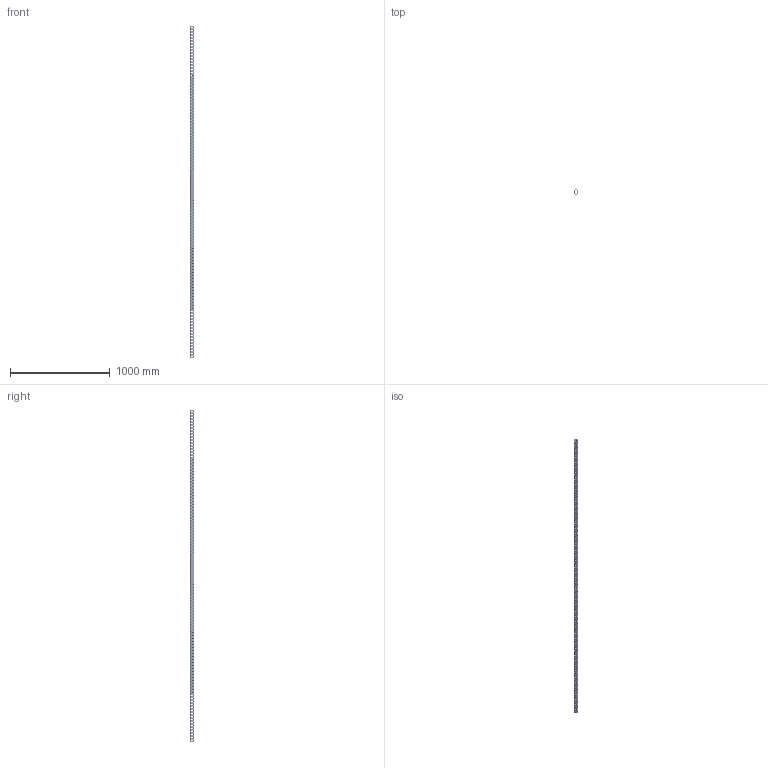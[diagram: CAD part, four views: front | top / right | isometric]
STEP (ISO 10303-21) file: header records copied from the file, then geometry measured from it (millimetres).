
FILE_DESCRIPTION(('CATIA V5 STEP Exchange'),'2;1');
FILE_NAME('U:\Room\唐宝山\EGT002\46-01-010340-01-EGT002-3328.stp','2021-08-24T07:30:40+00:00',('none'),('none'),'CATIA Version 5 Release 21 GA (IN-10)','CATIA V5 STEP AP203','none');
FILE_SCHEMA(('CONFIG_CONTROL_DESIGN'));
Products named in the file (1): 46-01-010340-01-EGT002-3328
Bounding box: 50 x 50 x 3328 mm (x, y, z)
Volume: 2371346.5 mm3; surface area: 1142061.4 mm2
Topology: 1 solids, 1 shells, 4524 faces, 12456 edges, 7712 vertices
Faces by surface type: cone 2664, cylinder 1834, plane 26
Entity records: 192422 total; most frequent: CARTESIAN_POINT 83609, ORIENTED_EDGE 24912, DIRECTION 17272, EDGE_CURVE 12456, AXIS2_PLACEMENT_3D 7957, VERTEX_POINT 7712, EDGE_LOOP 6080, VECTOR 4792
